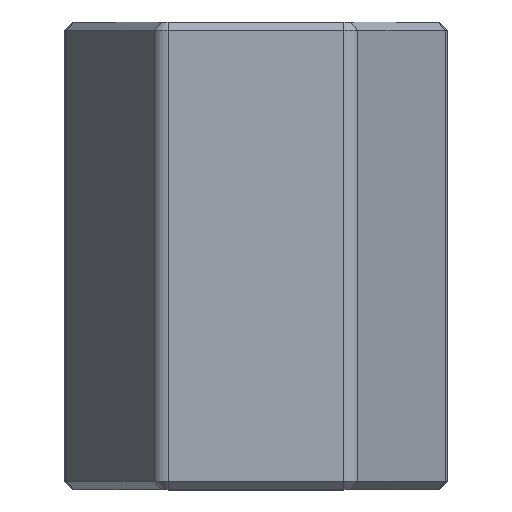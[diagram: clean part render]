
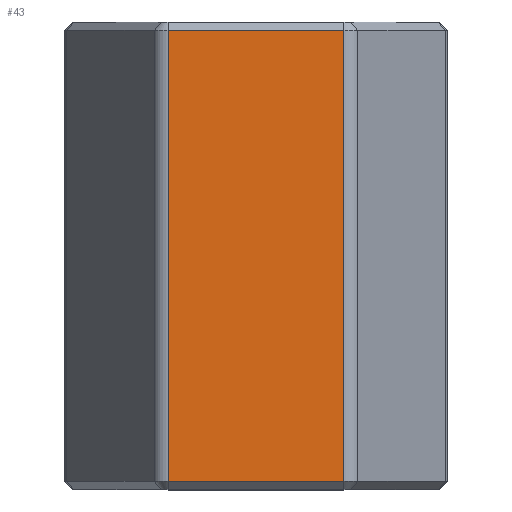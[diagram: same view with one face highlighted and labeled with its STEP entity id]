
A CAD part, top view. The second image highlights one B-rep face of the part: STEP entity #43.
In plain terms, the highlighted planar face has unit normal (0, 0, 1).
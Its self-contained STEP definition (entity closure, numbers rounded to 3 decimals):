
#43=ADVANCED_FACE('',(#123),#122,.T.);
#122=PLANE('',#638);
#123=FACE_OUTER_BOUND('',#639,.T.);
#635=CARTESIAN_POINT('',(-12.817,-4.5,20.5));
#636=DIRECTION('',(0.,0.,1.));
#637=DIRECTION('',(1.,0.,0.));
#638=AXIS2_PLACEMENT_3D('',#635,#636,#637);
#639=EDGE_LOOP('',(#940,#941,#942,#943));
#940=ORIENTED_EDGE('',*,*,#1163,.T.);
#941=ORIENTED_EDGE('',*,*,#1164,.T.);
#942=ORIENTED_EDGE('',*,*,#1165,.T.);
#943=ORIENTED_EDGE('',*,*,#1166,.T.);
#1163=EDGE_CURVE('',#1340,#1341,#1342,.T.);
#1164=EDGE_CURVE('',#1341,#1348,#1349,.T.);
#1165=EDGE_CURVE('',#1348,#1321,#1355,.T.);
#1166=EDGE_CURVE('',#1321,#1340,#1361,.T.);
#1321=VERTEX_POINT('',#2037);
#1340=VERTEX_POINT('',#2049);
#1341=VERTEX_POINT('',#2050);
#1342=LINE('',#2051,#2052);
#1348=VERTEX_POINT('',#2054);
#1349=LINE('',#2055,#2056);
#1355=LINE('',#2058,#2059);
#1361=LINE('',#2061,#2062);
#2037=CARTESIAN_POINT('',(-10.681,1.,20.5));
#2049=CARTESIAN_POINT('',(10.681,1.,20.5));
#2050=CARTESIAN_POINT('',(10.681,56.,20.5));
#2051=CARTESIAN_POINT('',(10.681,1.,20.5));
#2052=VECTOR('',#2053,55.);
#2053=DIRECTION('',(0.,1.,0.));
#2054=CARTESIAN_POINT('',(-10.681,56.,20.5));
#2055=CARTESIAN_POINT('',(10.681,56.,20.5));
#2056=VECTOR('',#2057,21.362);
#2057=DIRECTION('',(-1.,0.,0.));
#2058=CARTESIAN_POINT('',(-10.681,56.,20.5));
#2059=VECTOR('',#2060,55.);
#2060=DIRECTION('',(0.,-1.,0.));
#2061=CARTESIAN_POINT('',(-10.681,1.,20.5));
#2062=VECTOR('',#2063,21.362);
#2063=DIRECTION('',(1.,0.,0.));
